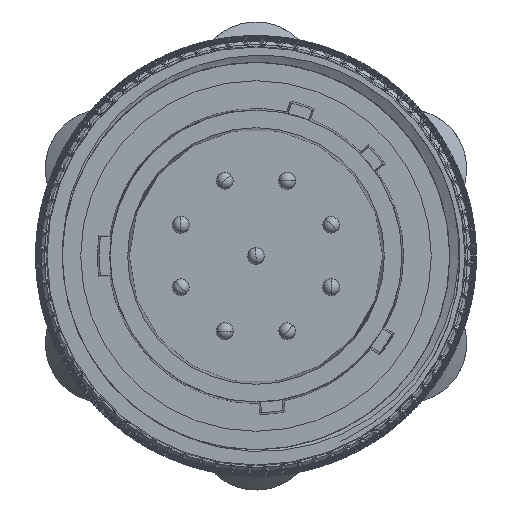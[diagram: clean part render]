
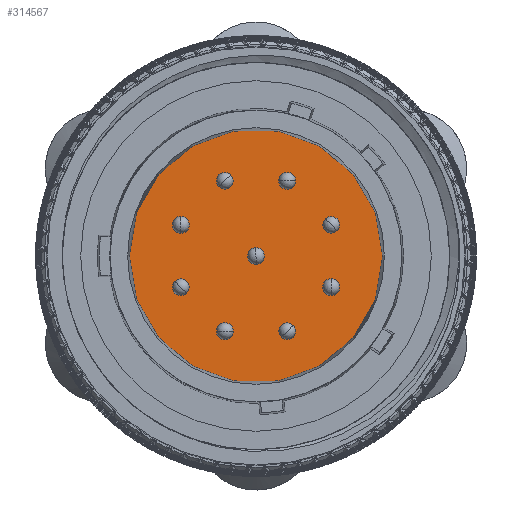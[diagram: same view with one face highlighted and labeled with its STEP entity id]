
A CAD part, left-side view. The second image highlights one B-rep face of the part: STEP entity #314567.
In plain terms, the highlighted planar face has unit normal (-1, 0, 0).
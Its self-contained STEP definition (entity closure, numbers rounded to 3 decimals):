
#110807=CARTESIAN_POINT('',(-0.2,0.,0.));
#110808=DIRECTION('',(1.,0.,0.));
#110809=DIRECTION('',(0.,1.,0.));
#110810=AXIS2_PLACEMENT_3D('',#110807,#110808,#110809);
#110812=CARTESIAN_POINT('',(-0.2,4.481,1.856));
#110813=DIRECTION('',(-1.,0.,0.));
#110814=DIRECTION('',(0.,0.,1.));
#110815=AXIS2_PLACEMENT_3D('',#110812,#110813,#110814);
#110817=CARTESIAN_POINT('',(-0.2,4.481,1.856));
#110818=DIRECTION('',(-1.,0.,0.));
#110819=DIRECTION('',(0.,0.,-1.));
#110820=AXIS2_PLACEMENT_3D('',#110817,#110818,#110819);
#110822=CARTESIAN_POINT('',(-0.2,4.481,-1.856));
#110823=DIRECTION('',(-1.,0.,0.));
#110824=DIRECTION('',(0.,0.707,0.707));
#110825=AXIS2_PLACEMENT_3D('',#110822,#110823,#110824);
#110827=CARTESIAN_POINT('',(-0.2,4.481,-1.856));
#110828=DIRECTION('',(-1.,0.,0.));
#110829=DIRECTION('',(0.,-0.707,-0.707));
#110830=AXIS2_PLACEMENT_3D('',#110827,#110828,#110829);
#110832=CARTESIAN_POINT('',(-0.2,1.856,-4.481));
#110833=DIRECTION('',(-1.,0.,0.));
#110834=DIRECTION('',(0.,1.,0.));
#110835=AXIS2_PLACEMENT_3D('',#110832,#110833,#110834);
#110837=CARTESIAN_POINT('',(-0.2,1.856,-4.481));
#110838=DIRECTION('',(-1.,0.,0.));
#110839=DIRECTION('',(0.,-1.,0.));
#110840=AXIS2_PLACEMENT_3D('',#110837,#110838,#110839);
#110842=CARTESIAN_POINT('',(-0.2,-1.856,-4.481));
#110843=DIRECTION('',(-1.,0.,0.));
#110844=DIRECTION('',(0.,0.707,-0.707));
#110845=AXIS2_PLACEMENT_3D('',#110842,#110843,#110844);
#110847=CARTESIAN_POINT('',(-0.2,-1.856,-4.481));
#110848=DIRECTION('',(-1.,0.,0.));
#110849=DIRECTION('',(0.,-0.707,0.707));
#110850=AXIS2_PLACEMENT_3D('',#110847,#110848,#110849);
#110852=CARTESIAN_POINT('',(-0.2,-4.481,-1.856));
#110853=DIRECTION('',(-1.,0.,0.));
#110854=DIRECTION('',(0.,0.,-1.));
#110855=AXIS2_PLACEMENT_3D('',#110852,#110853,#110854);
#110857=CARTESIAN_POINT('',(-0.2,-4.481,-1.856));
#110858=DIRECTION('',(-1.,0.,0.));
#110859=DIRECTION('',(0.,0.,1.));
#110860=AXIS2_PLACEMENT_3D('',#110857,#110858,#110859);
#110862=CARTESIAN_POINT('',(-0.2,-4.481,1.856));
#110863=DIRECTION('',(-1.,0.,0.));
#110864=DIRECTION('',(0.,-0.707,-0.707));
#110865=AXIS2_PLACEMENT_3D('',#110862,#110863,#110864);
#110867=CARTESIAN_POINT('',(-0.2,-4.481,1.856));
#110868=DIRECTION('',(-1.,0.,0.));
#110869=DIRECTION('',(0.,0.707,0.707));
#110870=AXIS2_PLACEMENT_3D('',#110867,#110868,#110869);
#110872=CARTESIAN_POINT('',(-0.2,-1.856,4.481));
#110873=DIRECTION('',(-1.,0.,0.));
#110874=DIRECTION('',(0.,-1.,0.));
#110875=AXIS2_PLACEMENT_3D('',#110872,#110873,#110874);
#110877=CARTESIAN_POINT('',(-0.2,-1.856,4.481));
#110878=DIRECTION('',(-1.,0.,0.));
#110879=DIRECTION('',(0.,1.,0.));
#110880=AXIS2_PLACEMENT_3D('',#110877,#110878,#110879);
#110882=CARTESIAN_POINT('',(-0.2,1.856,4.481));
#110883=DIRECTION('',(-1.,0.,0.));
#110884=DIRECTION('',(0.,-0.707,0.707));
#110885=AXIS2_PLACEMENT_3D('',#110882,#110883,#110884);
#110887=CARTESIAN_POINT('',(-0.2,1.856,4.481));
#110888=DIRECTION('',(-1.,0.,0.));
#110889=DIRECTION('',(0.,0.707,-0.707));
#110890=AXIS2_PLACEMENT_3D('',#110887,#110888,#110889);
#110892=CARTESIAN_POINT('',(-0.2,0.,0.));
#110893=DIRECTION('',(-1.,0.,0.));
#110894=DIRECTION('',(0.,0.,1.));
#110895=AXIS2_PLACEMENT_3D('',#110892,#110893,#110894);
#110897=CARTESIAN_POINT('',(-0.2,0.,0.));
#110898=DIRECTION('',(-1.,0.,0.));
#110899=DIRECTION('',(0.,0.,-1.));
#110900=AXIS2_PLACEMENT_3D('',#110897,#110898,#110899);
#110902=CARTESIAN_POINT('',(-0.2,0.,0.));
#110903=DIRECTION('',(1.,0.,0.));
#110904=DIRECTION('',(0.,-1.,0.));
#110905=AXIS2_PLACEMENT_3D('',#110902,#110903,#110904);
#121541=CARTESIAN_POINT('',(-0.2,7.55,0.));
#121542=CARTESIAN_POINT('',(-0.2,-7.55,0.));
#121543=VERTEX_POINT('',#121541);
#121544=VERTEX_POINT('',#121542);
#121549=CARTESIAN_POINT('',(-0.2,4.481,2.356));
#121550=CARTESIAN_POINT('',(-0.2,4.481,1.356));
#121551=VERTEX_POINT('',#121549);
#121552=VERTEX_POINT('',#121550);
#121553=CARTESIAN_POINT('',(-0.2,4.834,-1.502));
#121554=CARTESIAN_POINT('',(-0.2,4.127,-2.21));
#121555=VERTEX_POINT('',#121553);
#121556=VERTEX_POINT('',#121554);
#121557=CARTESIAN_POINT('',(-0.2,2.356,-4.481));
#121558=CARTESIAN_POINT('',(-0.2,1.356,-4.481));
#121559=VERTEX_POINT('',#121557);
#121560=VERTEX_POINT('',#121558);
#121561=CARTESIAN_POINT('',(-0.2,-1.502,-4.834));
#121562=CARTESIAN_POINT('',(-0.2,-2.21,-4.127));
#121563=VERTEX_POINT('',#121561);
#121564=VERTEX_POINT('',#121562);
#121565=CARTESIAN_POINT('',(-0.2,-4.481,-2.356));
#121566=CARTESIAN_POINT('',(-0.2,-4.481,-1.356));
#121567=VERTEX_POINT('',#121565);
#121568=VERTEX_POINT('',#121566);
#121569=CARTESIAN_POINT('',(-0.2,-4.834,1.502));
#121570=CARTESIAN_POINT('',(-0.2,-4.127,2.21));
#121571=VERTEX_POINT('',#121569);
#121572=VERTEX_POINT('',#121570);
#121573=CARTESIAN_POINT('',(-0.2,-2.356,4.481));
#121574=CARTESIAN_POINT('',(-0.2,-1.356,4.481));
#121575=VERTEX_POINT('',#121573);
#121576=VERTEX_POINT('',#121574);
#121577=CARTESIAN_POINT('',(-0.2,1.502,4.834));
#121578=CARTESIAN_POINT('',(-0.2,2.21,4.127));
#121579=VERTEX_POINT('',#121577);
#121580=VERTEX_POINT('',#121578);
#121581=CARTESIAN_POINT('',(-0.2,0.,0.5));
#121582=CARTESIAN_POINT('',(-0.2,0.,-0.5));
#121583=VERTEX_POINT('',#121581);
#121584=VERTEX_POINT('',#121582);
#314503=CARTESIAN_POINT('',(-0.2,0.,0.));
#314504=DIRECTION('',(1.,0.,0.));
#314505=DIRECTION('',(0.,0.,-1.));
#314506=AXIS2_PLACEMENT_3D('',#314503,#314504,#314505);
#314507=PLANE('',#314506);
#314508=ORIENTED_EDGE('',*,*,#314493,.T.);
#314510=ORIENTED_EDGE('',*,*,#314509,.T.);
#314511=EDGE_LOOP('',(#314508,#314510));
#314512=FACE_OUTER_BOUND('',#314511,.F.);
#314514=ORIENTED_EDGE('',*,*,#314513,.T.);
#314516=ORIENTED_EDGE('',*,*,#314515,.T.);
#314517=EDGE_LOOP('',(#314514,#314516));
#314518=FACE_BOUND('',#314517,.F.);
#314520=ORIENTED_EDGE('',*,*,#314519,.T.);
#314522=ORIENTED_EDGE('',*,*,#314521,.T.);
#314523=EDGE_LOOP('',(#314520,#314522));
#314524=FACE_BOUND('',#314523,.F.);
#314526=ORIENTED_EDGE('',*,*,#314525,.T.);
#314528=ORIENTED_EDGE('',*,*,#314527,.T.);
#314529=EDGE_LOOP('',(#314526,#314528));
#314530=FACE_BOUND('',#314529,.F.);
#314532=ORIENTED_EDGE('',*,*,#314531,.T.);
#314534=ORIENTED_EDGE('',*,*,#314533,.T.);
#314535=EDGE_LOOP('',(#314532,#314534));
#314536=FACE_BOUND('',#314535,.F.);
#314538=ORIENTED_EDGE('',*,*,#314537,.T.);
#314540=ORIENTED_EDGE('',*,*,#314539,.T.);
#314541=EDGE_LOOP('',(#314538,#314540));
#314542=FACE_BOUND('',#314541,.F.);
#314544=ORIENTED_EDGE('',*,*,#314543,.T.);
#314546=ORIENTED_EDGE('',*,*,#314545,.T.);
#314547=EDGE_LOOP('',(#314544,#314546));
#314548=FACE_BOUND('',#314547,.F.);
#314550=ORIENTED_EDGE('',*,*,#314549,.T.);
#314552=ORIENTED_EDGE('',*,*,#314551,.T.);
#314553=EDGE_LOOP('',(#314550,#314552));
#314554=FACE_BOUND('',#314553,.F.);
#314556=ORIENTED_EDGE('',*,*,#314555,.T.);
#314558=ORIENTED_EDGE('',*,*,#314557,.T.);
#314559=EDGE_LOOP('',(#314556,#314558));
#314560=FACE_BOUND('',#314559,.F.);
#314562=ORIENTED_EDGE('',*,*,#314561,.T.);
#314564=ORIENTED_EDGE('',*,*,#314563,.T.);
#314565=EDGE_LOOP('',(#314562,#314564));
#314566=FACE_BOUND('',#314565,.F.);
#110811=CIRCLE('',#110810,7.55);
#110816=CIRCLE('',#110815,0.5);
#110821=CIRCLE('',#110820,0.5);
#110826=CIRCLE('',#110825,0.5);
#110831=CIRCLE('',#110830,0.5);
#110836=CIRCLE('',#110835,0.5);
#110841=CIRCLE('',#110840,0.5);
#110846=CIRCLE('',#110845,0.5);
#110851=CIRCLE('',#110850,0.5);
#110856=CIRCLE('',#110855,0.5);
#110861=CIRCLE('',#110860,0.5);
#110866=CIRCLE('',#110865,0.5);
#110871=CIRCLE('',#110870,0.5);
#110876=CIRCLE('',#110875,0.5);
#110881=CIRCLE('',#110880,0.5);
#110886=CIRCLE('',#110885,0.5);
#110891=CIRCLE('',#110890,0.5);
#110896=CIRCLE('',#110895,0.5);
#110901=CIRCLE('',#110900,0.5);
#110906=CIRCLE('',#110905,7.55);
#314493=EDGE_CURVE('',#121543,#121544,#110811,.T.);
#314509=EDGE_CURVE('',#121544,#121543,#110906,.T.);
#314513=EDGE_CURVE('',#121551,#121552,#110816,.T.);
#314515=EDGE_CURVE('',#121552,#121551,#110821,.T.);
#314519=EDGE_CURVE('',#121555,#121556,#110826,.T.);
#314521=EDGE_CURVE('',#121556,#121555,#110831,.T.);
#314525=EDGE_CURVE('',#121559,#121560,#110836,.T.);
#314527=EDGE_CURVE('',#121560,#121559,#110841,.T.);
#314531=EDGE_CURVE('',#121563,#121564,#110846,.T.);
#314533=EDGE_CURVE('',#121564,#121563,#110851,.T.);
#314537=EDGE_CURVE('',#121567,#121568,#110856,.T.);
#314539=EDGE_CURVE('',#121568,#121567,#110861,.T.);
#314543=EDGE_CURVE('',#121571,#121572,#110866,.T.);
#314545=EDGE_CURVE('',#121572,#121571,#110871,.T.);
#314549=EDGE_CURVE('',#121575,#121576,#110876,.T.);
#314551=EDGE_CURVE('',#121576,#121575,#110881,.T.);
#314555=EDGE_CURVE('',#121579,#121580,#110886,.T.);
#314557=EDGE_CURVE('',#121580,#121579,#110891,.T.);
#314561=EDGE_CURVE('',#121583,#121584,#110896,.T.);
#314563=EDGE_CURVE('',#121584,#121583,#110901,.T.);
#314567=ADVANCED_FACE('',(#314512,#314518,#314524,#314530,#314536,#314542,
#314548,#314554,#314560,#314566),#314507,.F.);
